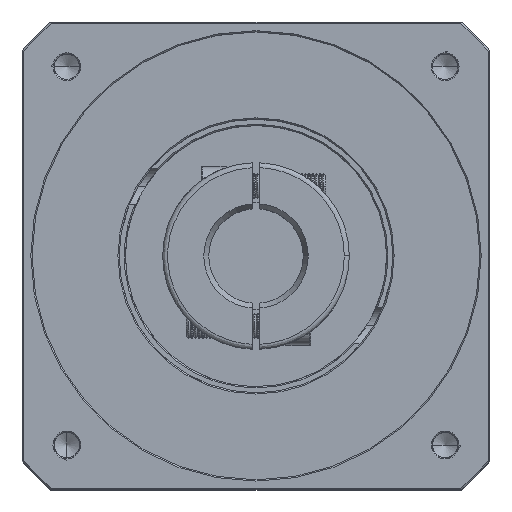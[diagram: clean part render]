
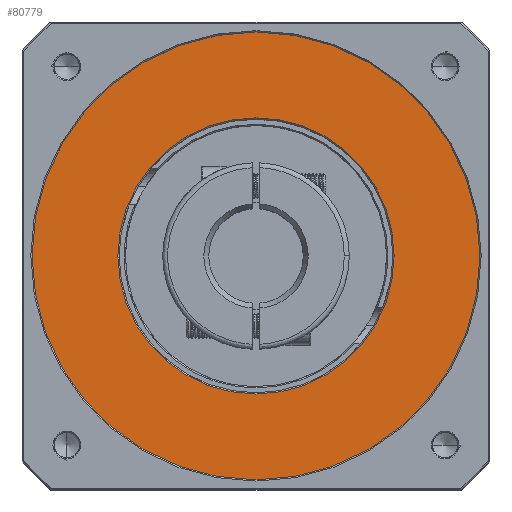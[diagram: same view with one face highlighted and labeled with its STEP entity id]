
A CAD part, top view. The second image highlights one B-rep face of the part: STEP entity #80779.
In plain terms, the highlighted planar face has unit normal (0, 0, 1).
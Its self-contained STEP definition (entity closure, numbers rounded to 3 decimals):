
#324 = ORIENTED_EDGE ( 'NONE', *, *, #131632, .T. ) ;
#2474 = AXIS2_PLACEMENT_3D ( 'NONE', #74919, #85480, #22973 ) ;
#3359 = DIRECTION ( 'NONE',  ( 0., 0., -1. ) ) ;
#3824 = DIRECTION ( 'NONE',  ( 1., 0., 0. ) ) ;
#4309 = EDGE_CURVE ( 'NONE', #94718, #15267, #100387, .T. ) ;
#7608 = CARTESIAN_POINT ( 'NONE',  ( -41.355, 104.514, 27.254 ) ) ;
#14962 = DIRECTION ( 'NONE',  ( 1., 0., 0. ) ) ;
#15267 = VERTEX_POINT ( 'NONE', #57840 ) ;
#16761 = PLANE ( 'NONE',  #122959 ) ;
#17119 = ORIENTED_EDGE ( 'NONE', *, *, #4309, .T. ) ;
#22973 = DIRECTION ( 'NONE',  ( 1., 0., 0. ) ) ;
#25648 = EDGE_CURVE ( 'NONE', #32371, #127823, #92795, .T. ) ;
#27234 = DIRECTION ( 'NONE',  ( 0., 0., 1. ) ) ;
#29651 = CARTESIAN_POINT ( 'NONE',  ( -96.855, 104.514, 27.254 ) ) ;
#32371 = VERTEX_POINT ( 'NONE', #58565 ) ;
#38331 = FACE_BOUND ( 'NONE', #88394, .T. ) ;
#40880 = DIRECTION ( 'NONE',  ( 1., 0., 0. ) ) ;
#44485 = CIRCLE ( 'NONE', #55778, 90. ) ;
#45660 = CIRCLE ( 'NONE', #83046, 55.5 ) ;
#49788 = ORIENTED_EDGE ( 'NONE', *, *, #125630, .T. ) ;
#50168 = DIRECTION ( 'NONE',  ( 1., 0., 0. ) ) ;
#55778 = AXIS2_PLACEMENT_3D ( 'NONE', #92455, #72299, #40880 ) ;
#57840 = CARTESIAN_POINT ( 'NONE',  ( -152.355, 104.514, 27.254 ) ) ;
#58565 = CARTESIAN_POINT ( 'NONE',  ( -6.855, 104.514, 27.254 ) ) ;
#65374 = CARTESIAN_POINT ( 'NONE',  ( -96.855, 104.514, 27.254 ) ) ;
#71127 = DIRECTION ( 'NONE',  ( 0., 0., 1. ) ) ;
#72299 = DIRECTION ( 'NONE',  ( 0., 0., 1. ) ) ;
#74919 = CARTESIAN_POINT ( 'NONE',  ( -96.855, 104.514, 27.254 ) ) ;
#80779 = ADVANCED_FACE ( 'NONE', ( #38331, #118317 ), #16761, .T. ) ;
#83046 = AXIS2_PLACEMENT_3D ( 'NONE', #65374, #3359, #3824 ) ;
#85480 = DIRECTION ( 'NONE',  ( 0., 0., -1. ) ) ;
#88394 = EDGE_LOOP ( 'NONE', ( #17119, #49788 ) ) ;
#88407 = ORIENTED_EDGE ( 'NONE', *, *, #25648, .T. ) ;
#89701 = CARTESIAN_POINT ( 'NONE',  ( -96.855, 104.514, 27.254 ) ) ;
#91331 = AXIS2_PLACEMENT_3D ( 'NONE', #29651, #71127, #50168 ) ;
#92455 = CARTESIAN_POINT ( 'NONE',  ( -96.855, 104.514, 27.254 ) ) ;
#92795 = CIRCLE ( 'NONE', #91331, 90. ) ;
#94718 = VERTEX_POINT ( 'NONE', #7608 ) ;
#100387 = CIRCLE ( 'NONE', #2474, 55.5 ) ;
#105931 = EDGE_LOOP ( 'NONE', ( #88407, #324 ) ) ;
#118317 = FACE_OUTER_BOUND ( 'NONE', #105931, .T. ) ;
#122959 = AXIS2_PLACEMENT_3D ( 'NONE', #89701, #27234, #14962 ) ;
#125630 = EDGE_CURVE ( 'NONE', #15267, #94718, #45660, .T. ) ;
#127823 = VERTEX_POINT ( 'NONE', #128459 ) ;
#128459 = CARTESIAN_POINT ( 'NONE',  ( -186.855, 104.514, 27.254 ) ) ;
#131632 = EDGE_CURVE ( 'NONE', #127823, #32371, #44485, .T. ) ;
